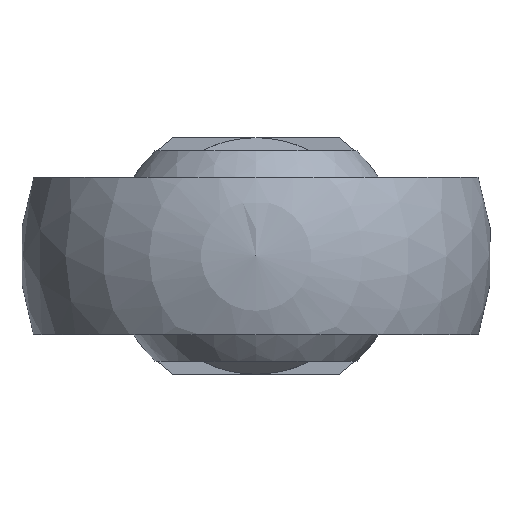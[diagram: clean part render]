
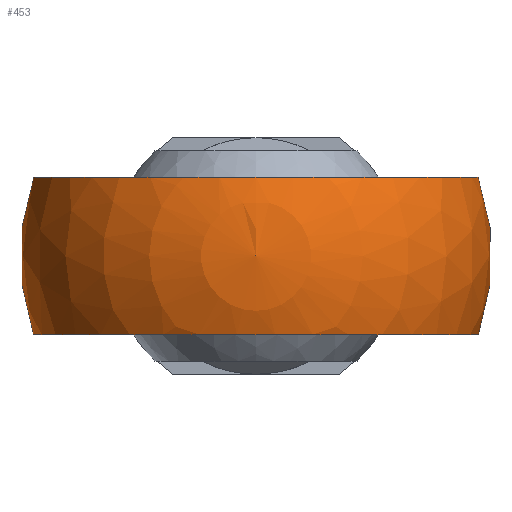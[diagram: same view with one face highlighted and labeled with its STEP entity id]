
A CAD part, left-side view. The second image highlights one B-rep face of the part: STEP entity #453.
In plain terms, the highlighted spherical face has radius 9 mm.
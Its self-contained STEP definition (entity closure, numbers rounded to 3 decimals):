
#19=SPHERICAL_SURFACE('',#503,9.);
#97=FACE_OUTER_BOUND('',#133,.T.);
#133=EDGE_LOOP('',(#330,#331,#332,#333));
#176=CIRCLE('',#488,8.485);
#178=CIRCLE('',#491,8.485);
#183=CIRCLE('',#500,7.72);
#184=CIRCLE('',#502,7.72);
#212=VERTEX_POINT('',#710);
#214=VERTEX_POINT('',#715);
#217=VERTEX_POINT('',#725);
#220=VERTEX_POINT('',#732);
#253=EDGE_CURVE('',#214,#212,#176,.T.);
#260=EDGE_CURVE('',#220,#217,#178,.T.);
#267=EDGE_CURVE('',#212,#217,#183,.T.);
#268=EDGE_CURVE('',#220,#214,#184,.T.);
#330=ORIENTED_EDGE('',*,*,#267,.T.);
#331=ORIENTED_EDGE('',*,*,#260,.F.);
#332=ORIENTED_EDGE('',*,*,#268,.T.);
#333=ORIENTED_EDGE('',*,*,#253,.T.);
#453=ADVANCED_FACE('',(#97),#19,.T.);
#488=AXIS2_PLACEMENT_3D('',#716,#568,#569);
#491=AXIS2_PLACEMENT_3D('',#736,#576,#577);
#500=AXIS2_PLACEMENT_3D('',#746,#594,#595);
#502=AXIS2_PLACEMENT_3D('',#748,#598,#599);
#503=AXIS2_PLACEMENT_3D('',#749,#600,#601);
#568=DIRECTION('center_axis',(0.,0.,1.));
#569=DIRECTION('ref_axis',(1.,0.,0.));
#576=DIRECTION('center_axis',(0.,0.,1.));
#577=DIRECTION('ref_axis',(1.,0.,0.));
#594=DIRECTION('center_axis',(-1.,0.,0.));
#595=DIRECTION('ref_axis',(0.,0.,1.));
#598=DIRECTION('center_axis',(-1.,0.,0.));
#599=DIRECTION('ref_axis',(0.,0.,1.));
#600=DIRECTION('center_axis',(-1.,0.,0.));
#601=DIRECTION('ref_axis',(0.,0.,1.));
#710=CARTESIAN_POINT('',(4.626,-7.113,-3.));
#715=CARTESIAN_POINT('',(4.626,7.113,-3.));
#716=CARTESIAN_POINT('Origin',(0.,0.,-3.));
#725=CARTESIAN_POINT('',(4.626,-7.113,3.));
#732=CARTESIAN_POINT('',(4.626,7.113,3.));
#736=CARTESIAN_POINT('Origin',(0.,0.,3.));
#746=CARTESIAN_POINT('Origin',(4.626,0.,0.));
#748=CARTESIAN_POINT('Origin',(4.626,0.,0.));
#749=CARTESIAN_POINT('Origin',(0.,0.,0.));
